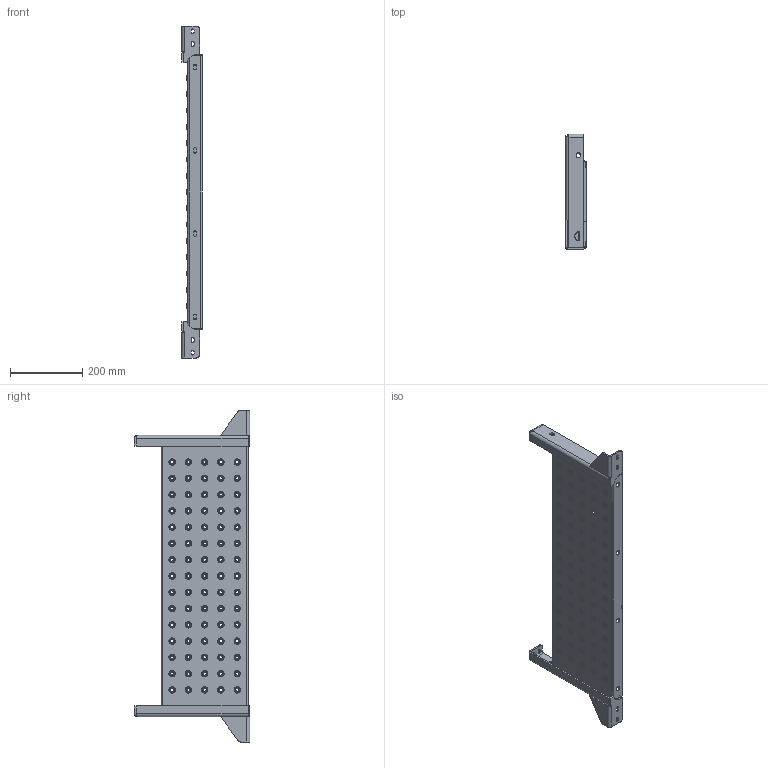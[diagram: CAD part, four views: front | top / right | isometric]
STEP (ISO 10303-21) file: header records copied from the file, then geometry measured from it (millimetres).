
FILE_DESCRIPTION (( 'STEP AP214' ), '1' );
FILE_NAME ('Folder step - Rev 1.STEP', '2026-02-26T09:19:18', ( '' ), ( '' ), 'SwSTEP 2.0', 'SolidWorks 2024', '' );
FILE_SCHEMA (( 'AUTOMOTIVE_DESIGN' ));
Length unit declared in the file: millimetre
Products named in the file (11): PART 1 - ladder; PART 3 - ladder; SUB-01-ladder with 1 step; PART 4 - ladder; PART 2 - ladder; SUB-02-ladder with 1 step; Folder step - Rev 1; PART 6 - ladder; SUB-03- ladder with 1 step; PART 7 - ladder; PART 5 - ladder
Assembly tree (12 placements, depth 3):
  Folder step - Rev 1
    SUB-02-ladder with 1 step
      PART 3 - ladder
      PART 6 - ladder
      PART 4 - ladder
    SUB-03- ladder with 1 step
      PART 2 - ladder
      PART 4 - ladder
      PART 7 - ladder
    SUB-01-ladder with 1 step
      PART 1 - ladder
      PART 5 - ladder  x2
Bounding box: 57 x 319 x 918 mm (x, y, z)
Volume: 874329.6 mm3; surface area: 710433 mm2
Topology: 9 solids, 9 shells, 2461 faces, 6773 edges, 4330 vertices
Faces by surface type: plane 1208, cone 831, torus 300, cylinder 110, bspline 12
Entity records: 79870 total; most frequent: CARTESIAN_POINT 23750, ORIENTED_EDGE 13412, DIRECTION 10687, EDGE_CURVE 6706, AXIS2_PLACEMENT_3D 4720, VERTEX_POINT 4287, EDGE_LOOP 2641, ADVANCED_FACE 2433
